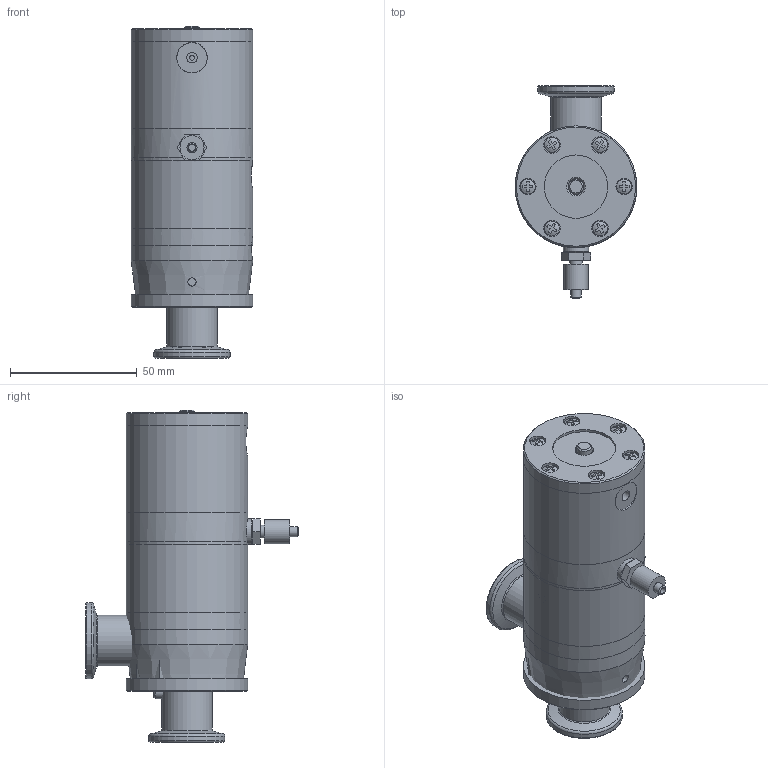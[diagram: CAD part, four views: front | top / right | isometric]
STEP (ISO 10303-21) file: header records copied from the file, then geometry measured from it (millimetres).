
FILE_DESCRIPTION( ( 'Unknown' ), '1' );
FILE_NAME( 'X:/Daten ( aktueller Bestand )/Projekte und Zeichnungen/Solid Edge/21 Eck + Durchgangsventile KF ISO-K, el.pneumatisch/Alu/Eckventil/NW16/Internet/310212.stp', 'Unknown', ( 'Unknown' ), ( 'Unknown' ), 'XStep 1.0', 'Unknown', ' ' );
FILE_SCHEMA( ( 'automotive_design' ) );
Length unit declared in the file: millimetre
Products named in the file (10): Assem1; Gehaeuse Eck.Alu.NW16; 3102-1; 3102-2; 3102-3; 3102-4; 3102-5; Schraube 3x8; M4x4; Anschluss Festo
Bounding box: 48 x 84 x 131 mm (x, y, z)
Volume: 338839.2 mm3; surface area: 92040 mm2
Topology: 24 solids, 24 shells, 428 faces, 963 edges, 637 vertices
Faces by surface type: plane 238, cylinder 121, cone 50, torus 12, sphere 7
Full cylindrical faces by diameter (mm): 2 x2, 2.459 x12, 2.8 x2, 3 x7, 3.242 x4, 3.3 x12, 4 x5, 4.134 x4, 5 x4, 5.793 x7, 6 x4, 6.3 x2, 6.5 x12, 9.518 x2, 10 x2, 10.3 x2, 12 x2, 12.5 x2, 17.2 x4, 20 x6, 25 x2, 26 x2, 30 x4, 33.739 x2, 37.97 x2, 39 x2, 39.8 x2, 43.698 x2, 48 x6
Entity records: 4545 total; most frequent: CARTESIAN_POINT 1148, DIRECTION 698, ORIENTED_EDGE 458, AXIS2_PLACEMENT_3D 310, EDGE_LOOP 295, EDGE_CURVE 229, FACE_OUTER_BOUND 223, VERTEX_POINT 200
